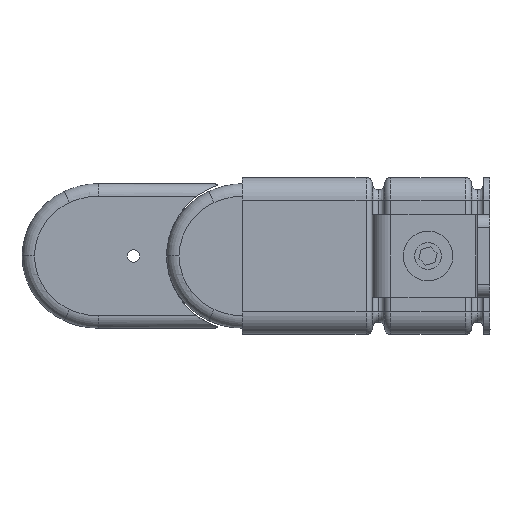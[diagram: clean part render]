
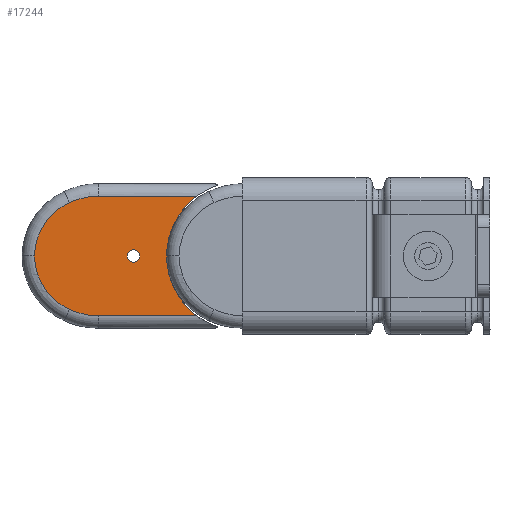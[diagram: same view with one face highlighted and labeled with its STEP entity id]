
A CAD part, left-side view. The second image highlights one B-rep face of the part: STEP entity #17244.
In plain terms, the highlighted free-form (B-spline) face has degree [1, 1] with [2, 2] control points.
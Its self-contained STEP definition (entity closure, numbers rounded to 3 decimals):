
#11627=CARTESIAN_POINT('',(-7.335,-14.5,50.0));
#11628=VERTEX_POINT('',#11627);
#11645=CARTESIAN_POINT('',(-7.335,14.5,50.0));
#11646=VERTEX_POINT('',#11645);
#11647=CARTESIAN_POINT('',(-18.0,0.,50.0));
#11648=DIRECTION('',(0.,0.,-1.));
#11649=DIRECTION('',(-0.306,0.952,0.));
#11650=AXIS2_PLACEMENT_3D('',#11647,#11648,#11649);
#11651=CIRCLE('',#11650,18.);
#11652=EDGE_CURVE('',#11646,#11628,#11651,.T.);
#12108=CARTESIAN_POINT('',(9.5,0.,50.0));
#12109=VERTEX_POINT('',#12108);
#12110=CARTESIAN_POINT('',(8.,0.,50.0));
#12111=DIRECTION('',(0.0,0.0,-1.0));
#12112=DIRECTION('',(-1.0,0.0,0.0));
#12113=AXIS2_PLACEMENT_3D('',#12110,#12111,#12112);
#12114=CIRCLE('',#12113,1.5);
#12115=EDGE_CURVE('',#12109,#12109,#12114,.T.);
#16864=CARTESIAN_POINT('',(16.4,-14.5,50.0));
#16865=VERTEX_POINT('',#16864);
#16873=CARTESIAN_POINT('',(16.4,-14.5,50.0));
#16874=DIRECTION('',(-1.0,0.0,0.0));
#16875=VECTOR('',#16874,23.735);
#16876=LINE('',#16873,#16875);
#16877=EDGE_CURVE('',#16865,#11628,#16876,.T.);
#17065=CARTESIAN_POINT('',(23.529,-12.933,50.0));
#17066=VERTEX_POINT('',#17065);
#17082=CARTESIAN_POINT('',(16.4,2.5,50.0));
#17083=DIRECTION('',(0.,0.,-1.0));
#17084=DIRECTION('',(0.215,-0.977,0.));
#17085=AXIS2_PLACEMENT_3D('',#17082,#17083,#17084);
#17086=CIRCLE('',#17085,17.0);
#17087=EDGE_CURVE('',#17066,#16865,#17086,.T.);
#17097=CARTESIAN_POINT('',(32.,0.,50.0));
#17098=VERTEX_POINT('',#17097);
#17099=CARTESIAN_POINT('',(17.502,0.255,50.0));
#17100=DIRECTION('',(0.,0.,-1.0));
#17101=DIRECTION('',(0.837,-0.546,0.));
#17102=AXIS2_PLACEMENT_3D('',#17099,#17100,#17101);
#17103=CIRCLE('',#17102,14.5);
#17104=EDGE_CURVE('',#17098,#17066,#17103,.T.);
#17139=CARTESIAN_POINT('',(23.529,12.933,50.0));
#17140=VERTEX_POINT('',#17139);
#17141=CARTESIAN_POINT('',(17.502,-0.255,50.0));
#17142=DIRECTION('',(0.,0.,-1.0));
#17143=DIRECTION('',(0.837,0.546,0.));
#17144=AXIS2_PLACEMENT_3D('',#17141,#17142,#17143);
#17145=CIRCLE('',#17144,14.5);
#17146=EDGE_CURVE('',#17140,#17098,#17145,.T.);
#17188=CARTESIAN_POINT('',(16.4,14.5,50.0));
#17189=VERTEX_POINT('',#17188);
#17197=CARTESIAN_POINT('',(16.4,-2.5,50.0));
#17198=DIRECTION('',(0.,0.,-1.));
#17199=DIRECTION('',(0.215,0.977,0.));
#17200=AXIS2_PLACEMENT_3D('',#17197,#17198,#17199);
#17201=CIRCLE('',#17200,17.);
#17202=EDGE_CURVE('',#17189,#17140,#17201,.T.);
#17216=CARTESIAN_POINT('',(-7.335,14.5,50.0));
#17217=DIRECTION('',(1.0,0.0,0.0));
#17218=VECTOR('',#17217,23.735);
#17219=LINE('',#17216,#17218);
#17220=EDGE_CURVE('',#11646,#17189,#17219,.T.);
#17227=CARTESIAN_POINT('',(-7.335,14.5,50.0));
#17228=CARTESIAN_POINT('',(32.,14.5,50.0));
#17229=CARTESIAN_POINT('',(-7.335,-14.5,50.0));
#17230=CARTESIAN_POINT('',(32.,-14.5,50.0));
#17231=B_SPLINE_SURFACE_WITH_KNOTS('',1,1,((#17227,#17229),(#17228,#17230)),.UNSPECIFIED.,.F.,.F.,.U.,(2,2),(2,2),(0.0,39.334),(0.0,29.),.UNSPECIFIED.);
#17232=ORIENTED_EDGE('',*,*,#16877,.F.);
#17233=ORIENTED_EDGE('',*,*,#17087,.F.);
#17234=ORIENTED_EDGE('',*,*,#17104,.F.);
#17235=ORIENTED_EDGE('',*,*,#17146,.F.);
#17236=ORIENTED_EDGE('',*,*,#17202,.F.);
#17237=ORIENTED_EDGE('',*,*,#17220,.F.);
#17238=ORIENTED_EDGE('',*,*,#11652,.T.);
#17239=EDGE_LOOP('',(#17232,#17233,#17234,#17235,#17236,#17237,#17238));
#17240=FACE_OUTER_BOUND('',#17239,.T.);
#17241=ORIENTED_EDGE('',*,*,#12115,.T.);
#17242=EDGE_LOOP('',(#17241));
#17243=FACE_BOUND('',#17242,.T.);
#17244=ADVANCED_FACE('',(#17240,#17243),#17231,.F.);
